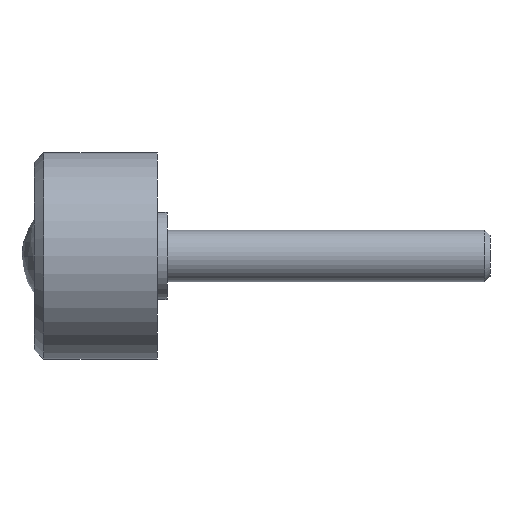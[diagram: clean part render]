
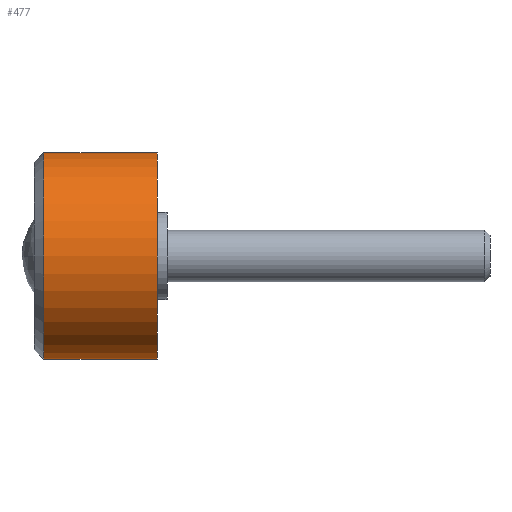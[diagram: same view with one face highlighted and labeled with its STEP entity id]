
A CAD part, left-side view. The second image highlights one B-rep face of the part: STEP entity #477.
In plain terms, the highlighted cylindrical face has radius 16 mm (diameter 32 mm), a partial arc.
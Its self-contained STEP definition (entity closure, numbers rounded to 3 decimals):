
#17 = EDGE_LOOP ( 'NONE', ( #341, #310, #577, #375 ) ) ;
#34 = LINE ( 'NONE', #388, #578 ) ;
#44 = CIRCLE ( 'NONE', #187, 16. ) ;
#61 = DIRECTION ( 'NONE',  ( 0., -1., 0. ) ) ;
#163 = CARTESIAN_POINT ( 'NONE',  ( 0., 17.6, 0. ) ) ;
#184 = FACE_OUTER_BOUND ( 'NONE', #17, .T. ) ;
#187 = AXIS2_PLACEMENT_3D ( 'NONE', #163, #406, #595 ) ;
#195 = AXIS2_PLACEMENT_3D ( 'NONE', #615, #610, #356 ) ;
#247 = VECTOR ( 'NONE', #61, 1000. ) ;
#252 = EDGE_CURVE ( 'NONE', #355, #379, #44, .T. ) ;
#261 = DIRECTION ( 'NONE',  ( 0., -1., 0. ) ) ;
#267 = CARTESIAN_POINT ( 'NONE',  ( 0., 17.6, 16. ) ) ;
#283 = DIRECTION ( 'NONE',  ( 0., -1., 0. ) ) ;
#294 = CYLINDRICAL_SURFACE ( 'NONE', #195, 16. ) ;
#310 = ORIENTED_EDGE ( 'NONE', *, *, #252, .T. ) ;
#324 = EDGE_CURVE ( 'NONE', #379, #370, #34, .T. ) ;
#341 = ORIENTED_EDGE ( 'NONE', *, *, #397, .F. ) ;
#355 = VERTEX_POINT ( 'NONE', #267 ) ;
#356 = DIRECTION ( 'NONE',  ( 0., 0., -1. ) ) ;
#370 = VERTEX_POINT ( 'NONE', #517 ) ;
#375 = ORIENTED_EDGE ( 'NONE', *, *, #733, .F. ) ;
#379 = VERTEX_POINT ( 'NONE', #673 ) ;
#388 = CARTESIAN_POINT ( 'NONE',  ( 0., 0., -16. ) ) ;
#397 = EDGE_CURVE ( 'NONE', #355, #436, #716, .T. ) ;
#406 = DIRECTION ( 'NONE',  ( 0., -1., 0. ) ) ;
#421 = CARTESIAN_POINT ( 'NONE',  ( 0., 0., 16. ) ) ;
#436 = VERTEX_POINT ( 'NONE', #603 ) ;
#450 = CIRCLE ( 'NONE', #508, 16. ) ;
#477 = ADVANCED_FACE ( 'NONE', ( #184 ), #294, .T. ) ;
#508 = AXIS2_PLACEMENT_3D ( 'NONE', #581, #283, #760 ) ;
#517 = CARTESIAN_POINT ( 'NONE',  ( 0., 0., -16. ) ) ;
#577 = ORIENTED_EDGE ( 'NONE', *, *, #324, .T. ) ;
#578 = VECTOR ( 'NONE', #261, 1000. ) ;
#581 = CARTESIAN_POINT ( 'NONE',  ( 0., 0., 0. ) ) ;
#595 = DIRECTION ( 'NONE',  ( 0., 0., 1. ) ) ;
#603 = CARTESIAN_POINT ( 'NONE',  ( 0., 0., 16. ) ) ;
#610 = DIRECTION ( 'NONE',  ( 0., -1., 0. ) ) ;
#615 = CARTESIAN_POINT ( 'NONE',  ( 0., 0., 0. ) ) ;
#673 = CARTESIAN_POINT ( 'NONE',  ( 0., 17.6, -16. ) ) ;
#716 = LINE ( 'NONE', #421, #247 ) ;
#733 = EDGE_CURVE ( 'NONE', #436, #370, #450, .T. ) ;
#760 = DIRECTION ( 'NONE',  ( 0., 0., -1. ) ) ;
